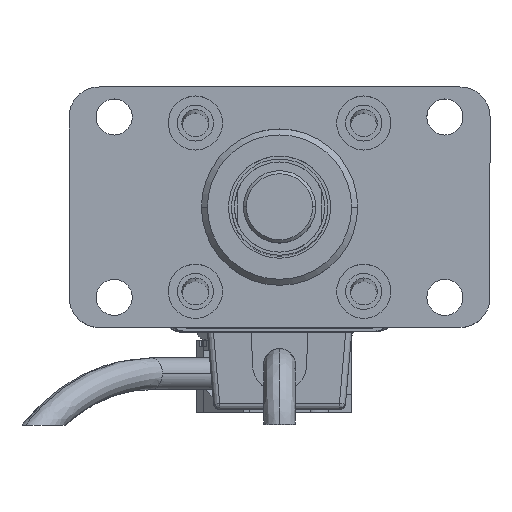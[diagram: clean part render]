
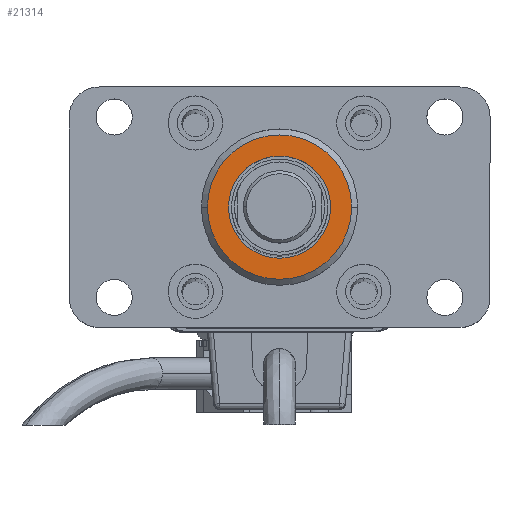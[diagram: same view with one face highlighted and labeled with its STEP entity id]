
A CAD part, top view. The second image highlights one B-rep face of the part: STEP entity #21314.
In plain terms, the highlighted planar face has unit normal (0, 0, 1) as drawn and (0, 0, -1) by its records, which use the part's own axes.
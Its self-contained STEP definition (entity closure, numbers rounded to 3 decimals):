
#264 = FACE_OUTER_BOUND ( 'NONE', #14399, .T. ) ;
#491 = DIRECTION ( 'NONE',  ( -1., 0., 0. ) ) ;
#1229 = PLANE ( 'NONE',  #24059 ) ;
#1655 = AXIS2_PLACEMENT_3D ( 'NONE', #25847, #19198, #23807 ) ;
#2557 = ORIENTED_EDGE ( 'NONE', *, *, #4011, .F. ) ;
#3377 = DIRECTION ( 'NONE',  ( 0., 0., -1. ) ) ;
#3516 = CIRCLE ( 'NONE', #12749, 8.5 ) ;
#4011 = EDGE_CURVE ( 'NONE', #5170, #18770, #3516, .T. ) ;
#5170 = VERTEX_POINT ( 'NONE', #5514 ) ;
#5383 = CIRCLE ( 'NONE', #24058, 12. ) ;
#5514 = CARTESIAN_POINT ( 'NONE',  ( -8.5, 0., -3. ) ) ;
#5596 = DIRECTION ( 'NONE',  ( 0., 0., -1. ) ) ;
#5756 = CARTESIAN_POINT ( 'NONE',  ( 0., 0., -3. ) ) ;
#6823 = AXIS2_PLACEMENT_3D ( 'NONE', #26986, #13838, #24471 ) ;
#6845 = ORIENTED_EDGE ( 'NONE', *, *, #20304, .T. ) ;
#6878 = CARTESIAN_POINT ( 'NONE',  ( 8.5, 0., -3. ) ) ;
#7115 = CIRCLE ( 'NONE', #1655, 12. ) ;
#8246 = EDGE_CURVE ( 'NONE', #27506, #16081, #5383, .T. ) ;
#8462 = ORIENTED_EDGE ( 'NONE', *, *, #25067, .F. ) ;
#12397 = CARTESIAN_POINT ( 'NONE',  ( 0., 0., -3. ) ) ;
#12749 = AXIS2_PLACEMENT_3D ( 'NONE', #13597, #18013, #491 ) ;
#13597 = CARTESIAN_POINT ( 'NONE',  ( 0., 0., -3. ) ) ;
#13838 = DIRECTION ( 'NONE',  ( 0., 0., -1. ) ) ;
#14399 = EDGE_LOOP ( 'NONE', ( #28027, #6845 ) ) ;
#16081 = VERTEX_POINT ( 'NONE', #27366 ) ;
#17029 = FACE_BOUND ( 'NONE', #17271, .T. ) ;
#17271 = EDGE_LOOP ( 'NONE', ( #8462, #2557 ) ) ;
#18013 = DIRECTION ( 'NONE',  ( 0., 0., -1. ) ) ;
#18770 = VERTEX_POINT ( 'NONE', #6878 ) ;
#18919 = DIRECTION ( 'NONE',  ( -1., 0., 0. ) ) ;
#18959 = CIRCLE ( 'NONE', #6823, 8.5 ) ;
#19198 = DIRECTION ( 'NONE',  ( 0., 0., -1. ) ) ;
#20304 = EDGE_CURVE ( 'NONE', #16081, #27506, #7115, .T. ) ;
#21314 = ADVANCED_FACE ( 'NONE', ( #264, #17029 ), #1229, .T. ) ;
#22955 = DIRECTION ( 'NONE',  ( -1., 0., 0. ) ) ;
#23807 = DIRECTION ( 'NONE',  ( -1., 0., 0. ) ) ;
#24058 = AXIS2_PLACEMENT_3D ( 'NONE', #5756, #3377, #18919 ) ;
#24059 = AXIS2_PLACEMENT_3D ( 'NONE', #12397, #5596, #22955 ) ;
#24248 = CARTESIAN_POINT ( 'NONE',  ( 12., 0., -3. ) ) ;
#24471 = DIRECTION ( 'NONE',  ( -1., 0., 0. ) ) ;
#25067 = EDGE_CURVE ( 'NONE', #18770, #5170, #18959, .T. ) ;
#25847 = CARTESIAN_POINT ( 'NONE',  ( 0., 0., -3. ) ) ;
#26986 = CARTESIAN_POINT ( 'NONE',  ( 0., 0., -3. ) ) ;
#27366 = CARTESIAN_POINT ( 'NONE',  ( -12., 0., -3. ) ) ;
#27506 = VERTEX_POINT ( 'NONE', #24248 ) ;
#28027 = ORIENTED_EDGE ( 'NONE', *, *, #8246, .T. ) ;
